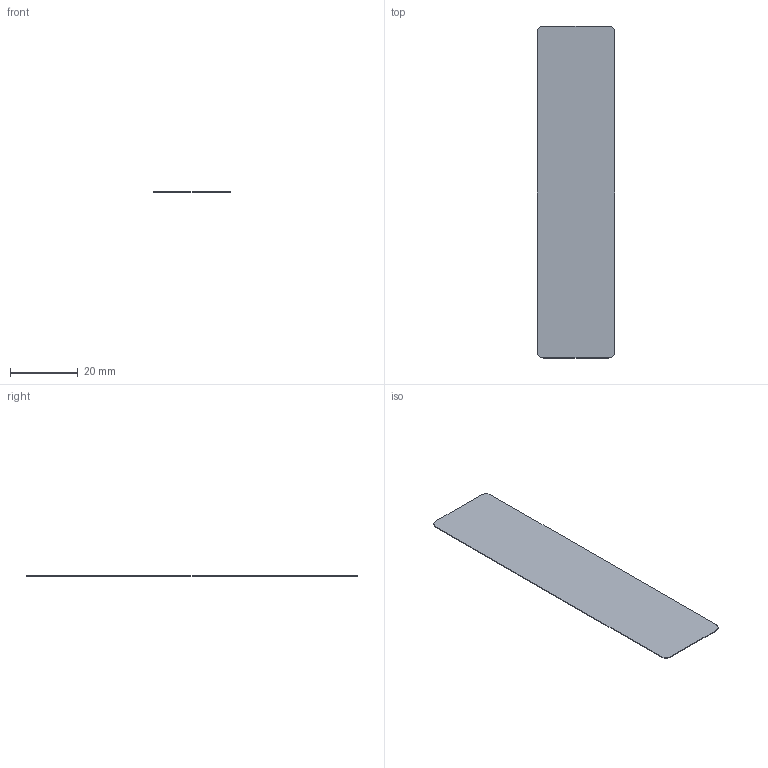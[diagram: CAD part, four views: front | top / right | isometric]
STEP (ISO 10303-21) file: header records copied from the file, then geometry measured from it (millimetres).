
FILE_DESCRIPTION(('Open CASCADE Model'),'2;1');
FILE_NAME('Open CASCADE Shape Model','2026-09-04T20:36:00',('Author'),( 'Open CASCADE'),'Open CASCADE STEP processor 7.7','Open CASCADE 7.7' ,'Unknown');
FILE_SCHEMA(('AUTOMOTIVE_DESIGN { 1 0 10303 214 1 1 1 1 }'));
Length unit declared in the file: millimetre
Products named in the file (1): Open CASCADE STEP translator 7.7 27
Bounding box: 23 x 98 x 0.2 mm (x, y, z)
Volume: 450.1 mm3; surface area: 4548.8 mm2
Topology: 1 solids, 1 shells, 10 faces, 24 edges, 16 vertices
Faces by surface type: plane 6, cylinder 4
Entity records: 630 total; most frequent: CARTESIAN_POINT 123, DIRECTION 98, LINE 56, VECTOR 56, ORIENTED_EDGE 48, PCURVE 48, DEFINITIONAL_REPRESENTATION 48, EDGE_CURVE 24
